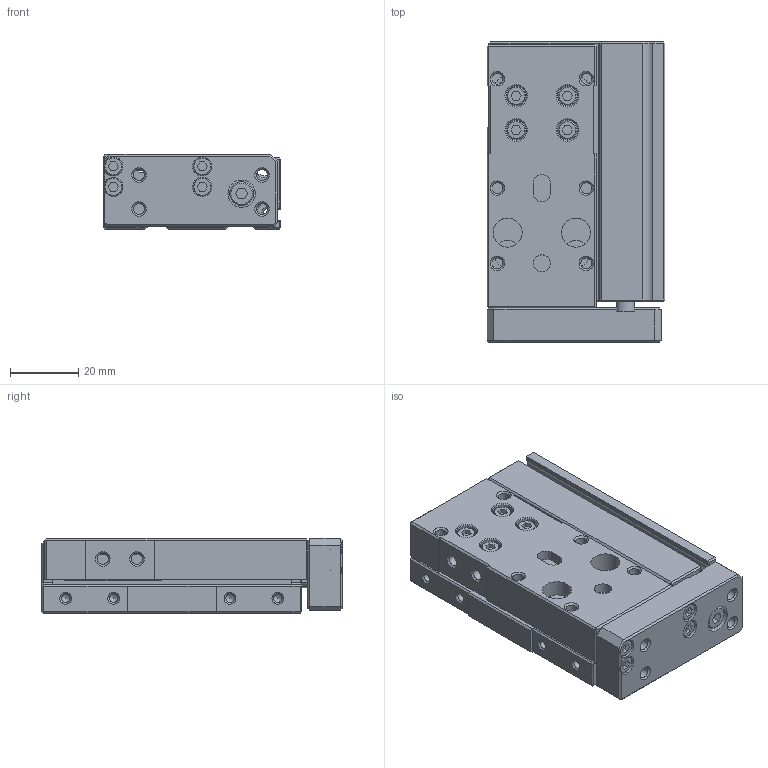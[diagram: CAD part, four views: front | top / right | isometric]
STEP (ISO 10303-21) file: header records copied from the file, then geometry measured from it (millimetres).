
FILE_DESCRIPTION((''),'2;1');
FILE_NAME('I:\3D電子目錄\氣缸\FMR(L)\FMR(L)\FMR(L)10\FMR10x30.stp','2007-10-15T15:56:57',('Administrator'),(''),'Autodesk Inventor 11','Autodesk Inventor 11','');
FILE_SCHEMA(('AUTOMOTIVE_DESIGN { 1 0 10303 214 1 1 1 1 }'));
Length unit declared in the file: millimetre
Products named in the file (1): FMR10x30
Bounding box: 52 x 87.8 x 22 mm (x, y, z)
Volume: 74283.6 mm3; surface area: 34567.2 mm2
Topology: 9 solids, 9 shells, 527 faces, 1243 edges, 774 vertices
Faces by surface type: plane 330, bspline 96, cylinder 53, cone 44, sphere 4
Full cylindrical faces by diameter (mm): 0.5 x2, 1.4 x4, 2 x2, 3.5 x2, 4 x1, 5 x4, 5.5 x8, 6 x3, 7 x1, 8 x1, 8.5 x4, 9 x1, 9.95 x2, 10 x2, 12 x4, 13 x2
Entity records: 14974 total; most frequent: CARTESIAN_POINT 3893, DIRECTION 2176, ORIENTED_EDGE 2080, EDGE_CURVE 1040, EDGE_LOOP 775, AXIS2_PLACEMENT_3D 731, VERTEX_POINT 725, VECTOR 714
